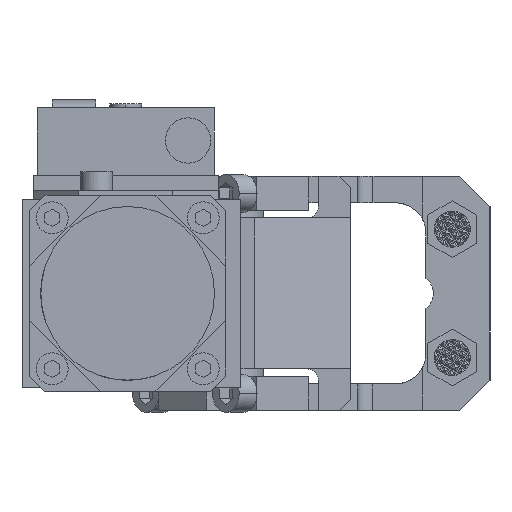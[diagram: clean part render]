
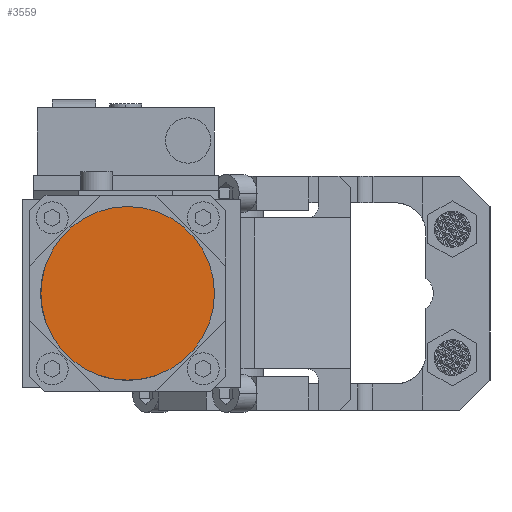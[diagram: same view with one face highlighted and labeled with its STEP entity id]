
A CAD part, front view. The second image highlights one B-rep face of the part: STEP entity #3559.
In plain terms, the highlighted planar face has unit normal (0, -1, 0) as drawn and (0, 1, 0) by its records, which use the part's own axes.
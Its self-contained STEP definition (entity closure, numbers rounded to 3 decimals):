
#25 = PLANE ( 'NONE',  #15241 ) ;
#99 = CIRCLE ( 'NONE', #5844, 23. ) ;
#187 = CARTESIAN_POINT ( 'NONE',  ( 0., 113., 0. ) ) ;
#654 = EDGE_LOOP ( 'NONE', ( #10601, #13889 ) ) ;
#3559 = ADVANCED_FACE ( 'NONE', ( #15020 ), #25, .T. ) ;
#5844 = AXIS2_PLACEMENT_3D ( 'NONE', #12767, #10902, #9116 ) ;
#7765 = VERTEX_POINT ( 'NONE', #18294 ) ;
#7768 = CIRCLE ( 'NONE', #16904, 23. ) ;
#9116 = DIRECTION ( 'NONE',  ( 0., 0., 1. ) ) ;
#10601 = ORIENTED_EDGE ( 'NONE', *, *, #11790, .T. ) ;
#10902 = DIRECTION ( 'NONE',  ( 0., 1., 0. ) ) ;
#11790 = EDGE_CURVE ( 'NONE', #7765, #13965, #99, .T. ) ;
#12209 = EDGE_CURVE ( 'NONE', #13965, #7765, #7768, .T. ) ;
#12767 = CARTESIAN_POINT ( 'NONE',  ( 0., 113., 0. ) ) ;
#13105 = DIRECTION ( 'NONE',  ( 0., 0., 1. ) ) ;
#13889 = ORIENTED_EDGE ( 'NONE', *, *, #12209, .T. ) ;
#13965 = VERTEX_POINT ( 'NONE', #16072 ) ;
#15020 = FACE_OUTER_BOUND ( 'NONE', #654, .T. ) ;
#15072 = DIRECTION ( 'NONE',  ( 0., 1., 0. ) ) ;
#15230 = DIRECTION ( 'NONE',  ( 0., 0., 1. ) ) ;
#15241 = AXIS2_PLACEMENT_3D ( 'NONE', #16815, #15072, #13105 ) ;
#16072 = CARTESIAN_POINT ( 'NONE',  ( 0., 113., 23. ) ) ;
#16815 = CARTESIAN_POINT ( 'NONE',  ( 0., 113., 0. ) ) ;
#16904 = AXIS2_PLACEMENT_3D ( 'NONE', #187, #16958, #15230 ) ;
#16958 = DIRECTION ( 'NONE',  ( 0., 1., 0. ) ) ;
#18294 = CARTESIAN_POINT ( 'NONE',  ( 0., 113., -23. ) ) ;
